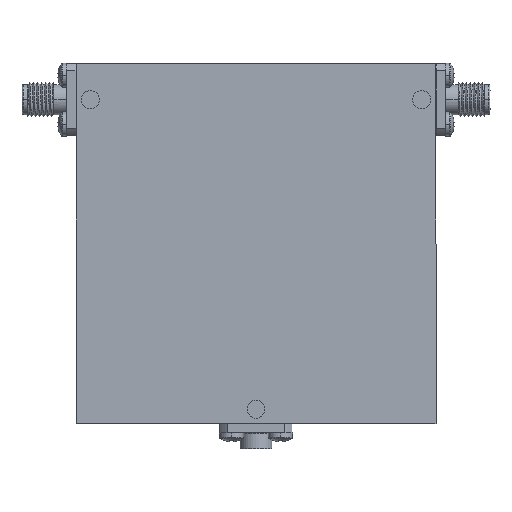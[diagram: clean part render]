
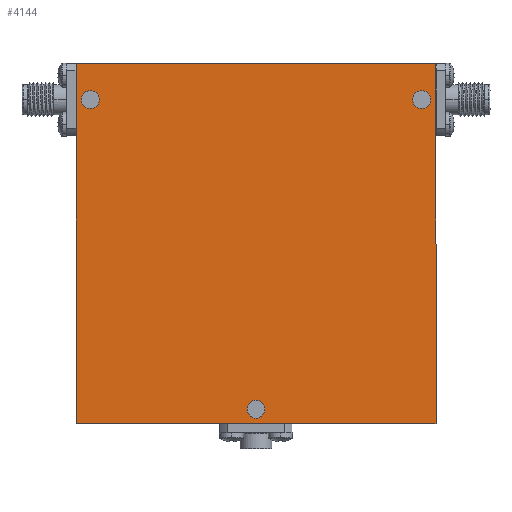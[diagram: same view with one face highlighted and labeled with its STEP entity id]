
A CAD part, top view. The second image highlights one B-rep face of the part: STEP entity #4144.
In plain terms, the highlighted planar face has unit normal (0, 0, 1).
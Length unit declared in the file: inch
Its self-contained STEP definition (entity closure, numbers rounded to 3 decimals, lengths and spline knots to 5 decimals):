
#55 = ORIENTED_EDGE ( 'NONE', *, *, #2659, .F. ) ;
#84 = CARTESIAN_POINT ( 'NONE',  ( 0.0625, -1.15, 0.365 ) ) ;
#153 = DIRECTION ( 'NONE',  ( 0., 0., 1. ) ) ;
#303 = AXIS2_PLACEMENT_3D ( 'NONE', #4236, #153, #3500 ) ;
#319 = ORIENTED_EDGE ( 'NONE', *, *, #2392, .F. ) ;
#439 = CARTESIAN_POINT ( 'NONE',  ( 1.2125, 1., 0.365 ) ) ;
#517 = DIRECTION ( 'NONE',  ( 1., 0., 0. ) ) ;
#552 = DIRECTION ( 'NONE',  ( 0., 0., 1. ) ) ;
#580 = VECTOR ( 'NONE', #3540, 39.37008 ) ;
#714 = AXIS2_PLACEMENT_3D ( 'NONE', #4286, #552, #3104 ) ;
#860 = FACE_BOUND ( 'NONE', #3179, .T. ) ;
#870 = CIRCLE ( 'NONE', #714, 0.0625 ) ;
#888 = CARTESIAN_POINT ( 'NONE',  ( -1.2125, 1., 0.365 ) ) ;
#913 = FACE_OUTER_BOUND ( 'NONE', #2710, .T. ) ;
#947 = ORIENTED_EDGE ( 'NONE', *, *, #4260, .F. ) ;
#965 = EDGE_CURVE ( 'NONE', #4107, #3333, #2719, .T. ) ;
#975 = FACE_BOUND ( 'NONE', #1198, .T. ) ;
#977 = VERTEX_POINT ( 'NONE', #2624 ) ;
#993 = DIRECTION ( 'NONE',  ( -1., 0., 0. ) ) ;
#1030 = CARTESIAN_POINT ( 'NONE',  ( -1.0875, 1., 0.365 ) ) ;
#1128 = AXIS2_PLACEMENT_3D ( 'NONE', #4849, #3387, #1150 ) ;
#1150 = DIRECTION ( 'NONE',  ( 1., 0., 0. ) ) ;
#1198 = EDGE_LOOP ( 'NONE', ( #947, #4385 ) ) ;
#1199 = CARTESIAN_POINT ( 'NONE',  ( -1.15, 1., 0.365 ) ) ;
#1211 = DIRECTION ( 'NONE',  ( 1., 0., 0. ) ) ;
#1212 = VERTEX_POINT ( 'NONE', #439 ) ;
#1352 = LINE ( 'NONE', #4608, #580 ) ;
#1428 = CARTESIAN_POINT ( 'NONE',  ( -1.25, 1.25, 0.365 ) ) ;
#1460 = DIRECTION ( 'NONE',  ( 1., 0., 0. ) ) ;
#1533 = CARTESIAN_POINT ( 'NONE',  ( -1.25, 1.25, 0.365 ) ) ;
#1587 = EDGE_CURVE ( 'NONE', #1212, #4644, #3335, .T. ) ;
#1599 = ORIENTED_EDGE ( 'NONE', *, *, #4309, .F. ) ;
#1720 = VECTOR ( 'NONE', #4838, 39.37008 ) ;
#1926 = VECTOR ( 'NONE', #993, 39.37008 ) ;
#2251 = CARTESIAN_POINT ( 'NONE',  ( 1.25, 1.25, 0.365 ) ) ;
#2266 = CARTESIAN_POINT ( 'NONE',  ( 1.15, 1., 0.365 ) ) ;
#2282 = DIRECTION ( 'NONE',  ( 0., 0., 1. ) ) ;
#2302 = DIRECTION ( 'NONE',  ( 1., 0., 0. ) ) ;
#2392 = EDGE_CURVE ( 'NONE', #2658, #3498, #3040, .T. ) ;
#2411 = VERTEX_POINT ( 'NONE', #888 ) ;
#2483 = AXIS2_PLACEMENT_3D ( 'NONE', #2266, #2282, #2977 ) ;
#2535 = ORIENTED_EDGE ( 'NONE', *, *, #3257, .T. ) ;
#2570 = DIRECTION ( 'NONE',  ( 0., 0., 1. ) ) ;
#2624 = CARTESIAN_POINT ( 'NONE',  ( 1.25, -1.25, 0.365 ) ) ;
#2625 = CARTESIAN_POINT ( 'NONE',  ( 1.0875, 1., 0.365 ) ) ;
#2658 = VERTEX_POINT ( 'NONE', #84 ) ;
#2659 = EDGE_CURVE ( 'NONE', #3498, #2658, #870, .T. ) ;
#2676 = EDGE_CURVE ( 'NONE', #977, #4263, #1352, .T. ) ;
#2691 = AXIS2_PLACEMENT_3D ( 'NONE', #3759, #3013, #2302 ) ;
#2710 = EDGE_LOOP ( 'NONE', ( #4506, #4728, #3120, #2535 ) ) ;
#2719 = LINE ( 'NONE', #1533, #1720 ) ;
#2754 = EDGE_LOOP ( 'NONE', ( #319, #55 ) ) ;
#2890 = EDGE_CURVE ( 'NONE', #4263, #4107, #4501, .T. ) ;
#2913 = CARTESIAN_POINT ( 'NONE',  ( 0., 0., 0.365 ) ) ;
#2977 = DIRECTION ( 'NONE',  ( 1., 0., 0. ) ) ;
#3013 = DIRECTION ( 'NONE',  ( 0., 0., 1. ) ) ;
#3040 = CIRCLE ( 'NONE', #303, 0.0625 ) ;
#3104 = DIRECTION ( 'NONE',  ( 1., 0., 0. ) ) ;
#3120 = ORIENTED_EDGE ( 'NONE', *, *, #965, .T. ) ;
#3179 = EDGE_LOOP ( 'NONE', ( #4272, #1599 ) ) ;
#3246 = CARTESIAN_POINT ( 'NONE',  ( -1.25, -1.25, 0.365 ) ) ;
#3257 = EDGE_CURVE ( 'NONE', #3333, #977, #4141, .T. ) ;
#3322 = VERTEX_POINT ( 'NONE', #1030 ) ;
#3333 = VERTEX_POINT ( 'NONE', #3246 ) ;
#3335 = CIRCLE ( 'NONE', #2691, 0.0625 ) ;
#3376 = AXIS2_PLACEMENT_3D ( 'NONE', #1199, #3556, #1211 ) ;
#3387 = DIRECTION ( 'NONE',  ( 0., 0., 1. ) ) ;
#3487 = CARTESIAN_POINT ( 'NONE',  ( -1.25, -1.25, 0.365 ) ) ;
#3498 = VERTEX_POINT ( 'NONE', #3539 ) ;
#3500 = DIRECTION ( 'NONE',  ( 1., 0., 0. ) ) ;
#3539 = CARTESIAN_POINT ( 'NONE',  ( -0.0625, -1.15, 0.365 ) ) ;
#3540 = DIRECTION ( 'NONE',  ( 0., 1., 0. ) ) ;
#3556 = DIRECTION ( 'NONE',  ( 0., 0., 1. ) ) ;
#3660 = CIRCLE ( 'NONE', #2483, 0.0625 ) ;
#3759 = CARTESIAN_POINT ( 'NONE',  ( 1.15, 1., 0.365 ) ) ;
#3992 = CARTESIAN_POINT ( 'NONE',  ( -1.25, 1.25, 0.365 ) ) ;
#4033 = CIRCLE ( 'NONE', #1128, 0.0625 ) ;
#4107 = VERTEX_POINT ( 'NONE', #1428 ) ;
#4141 = LINE ( 'NONE', #3487, #4253 ) ;
#4144 = ADVANCED_FACE ( 'NONE', ( #860, #4304, #975, #913 ), #4388, .T. ) ;
#4236 = CARTESIAN_POINT ( 'NONE',  ( 0., -1.15, 0.365 ) ) ;
#4253 = VECTOR ( 'NONE', #517, 39.37008 ) ;
#4260 = EDGE_CURVE ( 'NONE', #3322, #2411, #4033, .T. ) ;
#4263 = VERTEX_POINT ( 'NONE', #2251 ) ;
#4272 = ORIENTED_EDGE ( 'NONE', *, *, #1587, .F. ) ;
#4286 = CARTESIAN_POINT ( 'NONE',  ( 0., -1.15, 0.365 ) ) ;
#4304 = FACE_BOUND ( 'NONE', #2754, .T. ) ;
#4309 = EDGE_CURVE ( 'NONE', #4644, #1212, #3660, .T. ) ;
#4385 = ORIENTED_EDGE ( 'NONE', *, *, #4646, .F. ) ;
#4388 = PLANE ( 'NONE',  #4567 ) ;
#4501 = LINE ( 'NONE', #3992, #1926 ) ;
#4506 = ORIENTED_EDGE ( 'NONE', *, *, #2676, .T. ) ;
#4567 = AXIS2_PLACEMENT_3D ( 'NONE', #2913, #2570, #1460 ) ;
#4608 = CARTESIAN_POINT ( 'NONE',  ( 1.25, 1.25, 0.365 ) ) ;
#4644 = VERTEX_POINT ( 'NONE', #2625 ) ;
#4646 = EDGE_CURVE ( 'NONE', #2411, #3322, #4791, .T. ) ;
#4728 = ORIENTED_EDGE ( 'NONE', *, *, #2890, .T. ) ;
#4791 = CIRCLE ( 'NONE', #3376, 0.0625 ) ;
#4838 = DIRECTION ( 'NONE',  ( 0., -1., 0. ) ) ;
#4849 = CARTESIAN_POINT ( 'NONE',  ( -1.15, 1., 0.365 ) ) ;
